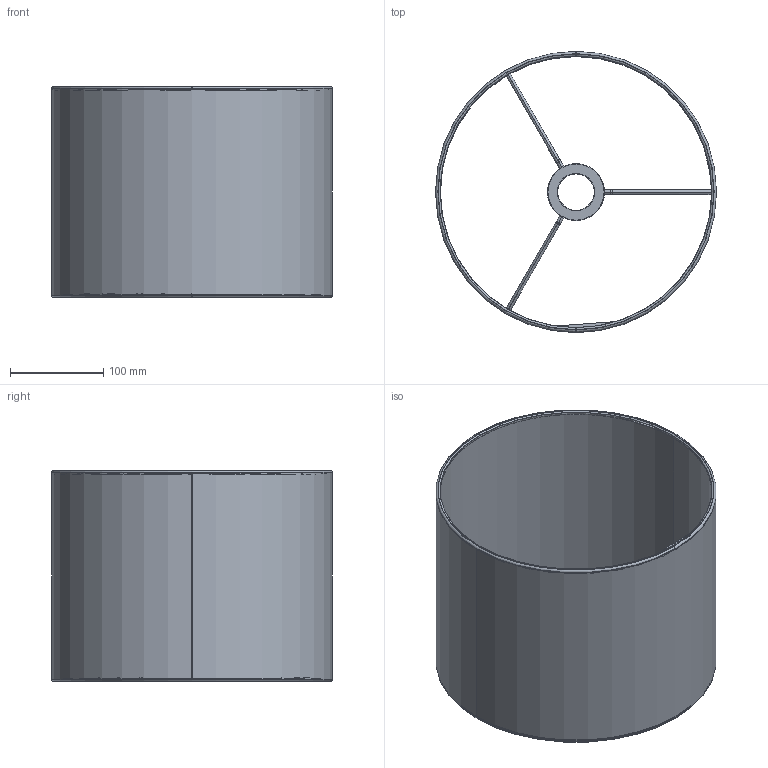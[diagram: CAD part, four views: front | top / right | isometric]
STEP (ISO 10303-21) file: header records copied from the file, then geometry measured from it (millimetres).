
FILE_DESCRIPTION(/* description */ (''),/* implementation_level */ '2;1');
FILE_NAME(/* name */ 'C:\Users\Franco Sartori E\Documents\FARO\Modelos\01_Indoor\DRUM\03_Publicación\2P0522_2P0524_DRUM_SHADE_3D.stp',/* time_stamp */ '2020-04-15T14:18:48+02:00',/* author */ ('Franco Sartori E'),/* organization */ (''),/* preprocessor_version */ 'ST-DEVELOPER v18',/* originating_system */ 'AutoCAD Mechanical',/* authorisation */ '');
FILE_SCHEMA (('AUTOMOTIVE_DESIGN { 1 0 10303 214 3 1 1 }'));
Length unit declared in the file: millimetre
Products named in the file (1): Product
Bounding box: 301 x 301 x 226 mm (x, y, z)
Volume: 850292.6 mm3; surface area: 2192562.2 mm2
Topology: 43 solids, 61 shells, 366 faces, 848 edges, 568 vertices
Faces by surface type: plane 176, cylinder 84, torus 52, bspline 46, cone 8
Entity records: 13936 total; most frequent: CARTESIAN_POINT 5722, DIRECTION 1682, ORIENTED_EDGE 1552, EDGE_CURVE 848, AXIS2_PLACEMENT_3D 645, VERTEX_POINT 568, LINE 392, VECTOR 392
